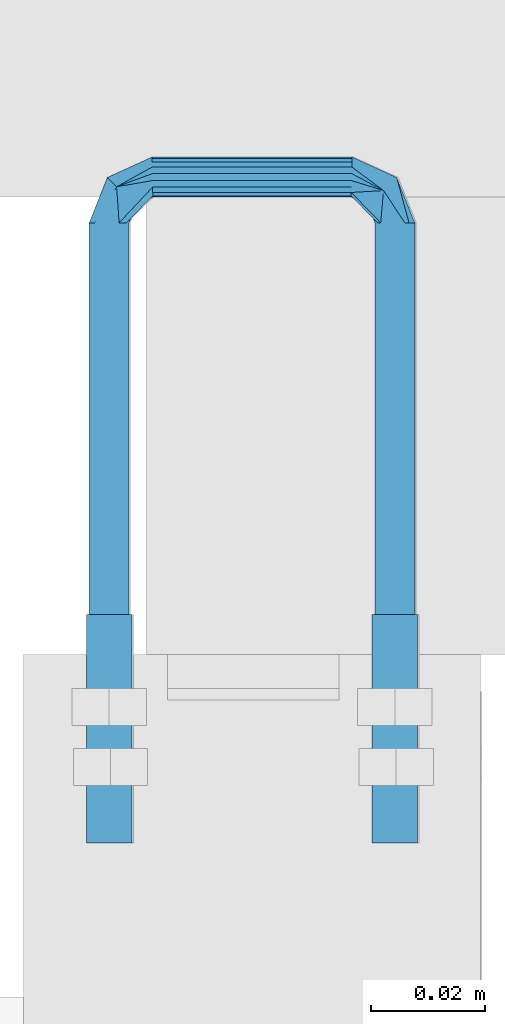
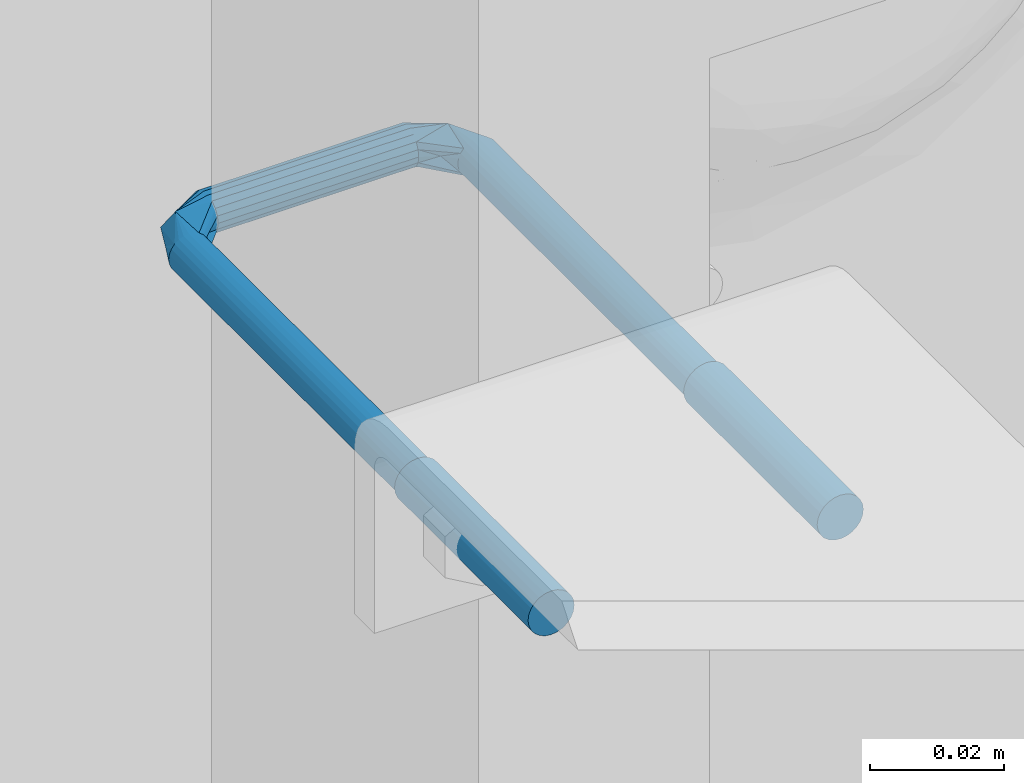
# One storey, part 2 of 13: 1 assembly.
"""IFC2X3 building model written with IfcOpenShell, lengths in metres."""

import ifcopenshell
import ifcopenshell.guid

model = None  # the IFC model being written
_history = None  # IfcOwnerHistory: only IFC2X3 demands one
_inside = {}  # id of a spatial element -> (the spatial element, [elements in it])
_under = {}  # id of a project, library or spatial element -> (it, [spatial elements below it])
_declared = {}  # id of a project -> (the project, [libraries it declares])
_typed = {}  # id of a type object -> (the type object, [elements of that type])
_made_of = {}  # id of a material, layer set ... -> (it, [elements and type objects made of it])


def new_model(schema):
    """Start an empty IFC model of exactly this schema.

    Asked for "IFC4X3", IfcOpenShell would pick the latest addendum, in which some entities
    have other attributes; the version numbers below select the first issue.
    IFC2X3 requires an IfcOwnerHistory on every rooted entity: one is made here for all.
    """
    global model, _history
    if schema == "IFC4X3":
        model = ifcopenshell.file(schema_version=(4, 3, 0, 0))
    else:
        model = ifcopenshell.file(schema=schema)
    _inside.clear()
    _under.clear()
    _declared.clear()
    _typed.clear()
    _made_of.clear()
    _history = None
    if model.schema == "IFC2X3":
        org = make("IfcOrganization", Name="unknown")
        user = make(
            "IfcPersonAndOrganization",
            ThePerson=make("IfcPerson", FamilyName="unknown"),
            TheOrganization=org,
        )
        app = make(
            "IfcApplication",
            ApplicationDeveloper=org,
            Version="unknown",
            ApplicationFullName="unknown",
            ApplicationIdentifier="unknown",
        )
        _history = make(
            "IfcOwnerHistory",
            OwningUser=user,
            OwningApplication=app,
            ChangeAction="ADDED",
            CreationDate=0,
        )
    return model


def make(cls, **values):
    """One entity of the class cls with the attributes given. An attribute that is None is left unset."""
    return model.create_entity(
        cls, **{name: value for name, value in values.items() if value is not None}
    )


def entity(cls, *values):
    """Any entity or typed value of the class cls, its attributes in the order of the schema. None: left unset."""
    e = model.create_entity(cls)
    for i, value in enumerate(values):
        if value is not None:
            e[i] = value
    return e


def rooted(cls, **values):
    """An entity with a GlobalId (a new one), such as an element, a storey or a relation."""
    return make(cls, GlobalId=ifcopenshell.guid.new(), OwnerHistory=_history, **values)


def si_unit(unit_type, name, prefix=None):
    """IfcSIUnit, for example si_unit("LENGTHUNIT", "METRE", prefix="MILLI")."""
    return make("IfcSIUnit", UnitType=unit_type, Prefix=prefix, Name=name)


def converted_unit(unit_type, name, factor, base, dimensions=None, offset=None):
    """IfcConversionBasedUnit, such as the inch: factor (a typed value) times the base unit."""
    return make(
        "IfcConversionBasedUnit"
        if offset is None
        else "IfcConversionBasedUnitWithOffset",
        ConversionOffset=offset,
        Dimensions=None
        if dimensions is None
        else entity("IfcDimensionalExponents", *dimensions),
        UnitType=unit_type,
        Name=name,
        ConversionFactor=make(
            "IfcMeasureWithUnit", ValueComponent=factor, UnitComponent=base
        ),
    )


def derived_unit(unit_type, elements):
    """IfcDerivedUnit: a product of units, each with its exponent."""
    return make(
        "IfcDerivedUnit",
        Elements=[
            make("IfcDerivedUnitElement", Unit=unit, Exponent=power)
            for unit, power in elements
        ],
        UnitType=unit_type,
    )


def assignment(units):
    """IfcUnitAssignment: the units of a project."""
    return None if units is None else make("IfcUnitAssignment", Units=units)


def point(xyz):
    """IfcCartesianPoint."""
    return None if xyz is None else make("IfcCartesianPoint", Coordinates=xyz)


def direction(xyz):
    """IfcDirection."""
    return None if xyz is None else make("IfcDirection", DirectionRatios=xyz)


def frame(location, z_axis=None, x_axis=None):
    """IfcAxis2Placement3D, a coordinate frame: its origin and axes. An axis left out is left unset."""
    return make(
        "IfcAxis2Placement3D",
        Location=point(location),
        Axis=direction(z_axis),
        RefDirection=direction(x_axis),
    )


def origin():
    """The frame at (0, 0, 0) with its axes left unset."""
    return frame((0.0, 0.0, 0.0))


def place(relative_to, where):
    """IfcLocalPlacement: puts the frame where relative to a parent placement (None: the world)."""
    return make(
        "IfcLocalPlacement", PlacementRelTo=relative_to, RelativePlacement=where
    )


def context(
    kind, dimensions, precision=None, world=None, true_north=None, identifier=None
):
    """IfcGeometricRepresentationContext, for example the 3D "Model" context."""
    return make(
        "IfcGeometricRepresentationContext",
        ContextIdentifier=identifier,
        ContextType=kind,
        CoordinateSpaceDimension=dimensions,
        Precision=precision,
        WorldCoordinateSystem=world,
        TrueNorth=true_north,
    )


def subcontext(parent, identifier, kind, view, scale=None):
    """IfcGeometricRepresentationSubContext, for example "Body" below "Model"."""
    return make(
        "IfcGeometricRepresentationSubContext",
        ContextIdentifier=identifier,
        ContextType=kind,
        ParentContext=parent,
        TargetScale=scale,
        TargetView=view,
    )


def project(units=None, contexts=None):
    """IfcProject with its units and contexts."""
    return rooted(
        "IfcProject",
        Name="project",
        RepresentationContexts=contexts,
        UnitsInContext=assignment(units),
    )


def spatial(cls, under=None, at=None, **own):
    """A site, building, storey or space (cls), placed at a placement, below another one or the project."""
    s = rooted(cls, ObjectPlacement=at, **own)
    if under is not None:
        _under.setdefault(under.id(), (under, []))[1].append(s)
    return s


def faces_of(points, faces, orient=None, outer=None):
    """IfcFace entities. A face is a list of loops; a loop is a list of indices into points, from 0.

    orient and outer hold one flag for each loop. By default every Orientation is true, the
    first loop of a face is its IfcFaceOuterBound and the others are IfcFaceBound.
    """
    made = []
    for i, loops in enumerate(faces):
        bounds = []
        for j, loop in enumerate(loops):
            is_outer = j == 0 if outer is None else outer[i][j]
            bounds.append(
                make(
                    "IfcFaceOuterBound" if is_outer else "IfcFaceBound",
                    Bound=make("IfcPolyLoop", Polygon=[points[k] for k in loop]),
                    Orientation=True if orient is None else orient[i][j],
                )
            )
        made.append(make("IfcFace", Bounds=bounds))
    return made


def faceted_brep(points, faces, orient=None, outer=None, voids=None):
    """IfcFacetedBrep: a solid bounded by flat faces; with voids (closed shells), ...WithVoids."""
    shared = [point(p) for p in points]
    hull = make("IfcClosedShell", CfsFaces=faces_of(shared, faces, orient, outer))
    if voids is None:
        return make("IfcFacetedBrep", Outer=hull)
    return make(
        "IfcFacetedBrepWithVoids",
        Outer=hull,
        Voids=[
            make(cls, CfsFaces=faces_of(shared, fs, o, b)) for cls, fs, o, b in voids
        ],
    )


def shape(context_of_items, identifier, shape_type, items):
    """IfcShapeRepresentation: the items that make up one representation, for example the "Body"."""
    return make(
        "IfcShapeRepresentation",
        ContextOfItems=context_of_items,
        RepresentationIdentifier=identifier,
        RepresentationType=shape_type,
        Items=items,
    )


def source(mapping_origin, context_of_items, identifier, shape_type, items):
    """IfcRepresentationMap: a shape defined once, which mapped items show again and again."""
    return make(
        "IfcRepresentationMap",
        MappingOrigin=mapping_origin,
        MappedRepresentation=shape(context_of_items, identifier, shape_type, items),
    )


def transform(
    local_origin,
    x_axis=None,
    y_axis=None,
    z_axis=None,
    scale=None,
    scale2=None,
    scale3=None,
    uniform=True,
):
    """IfcCartesianTransformationOperator3D, or its non-uniform kind. x_axis, y_axis, z_axis: its Axis1, 2, 3."""
    if uniform:
        return make(
            "IfcCartesianTransformationOperator3D",
            Axis1=direction(x_axis),
            Axis2=direction(y_axis),
            LocalOrigin=point(local_origin),
            Scale=scale,
            Axis3=direction(z_axis),
        )
    return make(
        "IfcCartesianTransformationOperator3DnonUniform",
        Axis1=direction(x_axis),
        Axis2=direction(y_axis),
        LocalOrigin=point(local_origin),
        Scale=scale,
        Axis3=direction(z_axis),
        Scale2=scale2,
        Scale3=scale3,
    )


def mapped(mapping_source, mapping_target):
    """IfcMappedItem: shows the shape of a source again, moved by a transform."""
    return make(
        "IfcMappedItem", MappingSource=mapping_source, MappingTarget=mapping_target
    )


def material(Name=None, Category=None):
    """IfcMaterial."""
    return make("IfcMaterial", Name=Name, Category=Category)


def made_of(thing, what):
    """Note that an element or type object is made of a material, layer set ...; save() writes the relation."""
    if what is not None:
        _made_of.setdefault(what.id(), (what, []))[1].append(thing)
    return thing


def type_object(cls, material=None, **own):
    """A type object (cls), such as IfcWallType, which elements share."""
    return made_of(rooted(cls, **own), material)


def type_shapes(of_type, sources):
    """Give a type object the sources (RepresentationMaps) that its elements show as mapped items."""
    of_type.RepresentationMaps = sources


def element(
    cls,
    number,
    at=None,
    inside=None,
    cuts=None,
    type_object=None,
    material=None,
    context=None,
    identifier="Body",
    shape_type=None,
    held_by="IfcProductDefinitionShape",
    body=None,
    shapes=None,
    **own,
):
    """One element of the class cls, such as IfcWall. Its Tag is "e" and its number.

    at: its placement. inside: the storey or other place that contains it. cuts: it is an
    opening in that element (IfcRelVoidsElement). A single representation is given by context,
    identifier, shape_type and body (its items); several are given by shapes. held_by: the class
    of the entity that holds the representations. save() writes the other relations.
    """
    e = rooted(cls, Tag="e%d" % number, ObjectPlacement=at, **own)
    if body is not None:
        shapes = [shape(context, identifier, shape_type, body)]
    if shapes is not None:
        e.Representation = make(held_by, Representations=shapes)
    if inside is not None:
        _inside.setdefault(inside.id(), (inside, []))[1].append(e)
    if cuts is not None:
        rooted(
            "IfcRelVoidsElement", RelatingBuildingElement=cuts, RelatedOpeningElement=e
        )
    if type_object is not None:
        _typed.setdefault(type_object.id(), (type_object, []))[1].append(e)
    return made_of(e, material)


def aggregate(whole, parts):
    """IfcRelAggregates: a whole, such as a stair, and the parts it consists of."""
    return rooted("IfcRelAggregates", RelatingObject=whole, RelatedObjects=parts)


def save(model, path):
    """Write the relations noted so far, then the file.

    IfcRelAggregates (storeys below a building ...), IfcRelContainedInSpatialStructure (elements
    in a storey), IfcRelDefinesByType, IfcRelAssociatesMaterial and IfcRelDeclares: one each for
    every whole, place, type object, material and project.
    """
    for whole, parts in _under.values():
        aggregate(whole, parts)
    for where, things in _inside.values():
        rooted(
            "IfcRelContainedInSpatialStructure",
            RelatedElements=things,
            RelatingStructure=where,
        )
    for kind, things in _typed.values():
        rooted("IfcRelDefinesByType", RelatedObjects=things, RelatingType=kind)
    for what, things in _made_of.values():
        rooted("IfcRelAssociatesMaterial", RelatedObjects=things, RelatingMaterial=what)
    for by, libraries in _declared.values():
        rooted("IfcRelDeclares", RelatingContext=by, RelatedDefinitions=libraries)
    model.write(path)


model = new_model("IFC2X3")

# Units and contexts
model_context = context("Model", 3, precision=1e-05, world=origin(), true_north=direction((6.123031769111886e-17, 1.0)))
body_context = subcontext(model_context, "Body", "Model", "MODEL_VIEW")
ifc_project = project(units=[si_unit("LENGTHUNIT", "METRE"), si_unit("AREAUNIT", "SQUARE_METRE"), converted_unit("PLANEANGLEUNIT", "DEGREE", entity("IfcPlaneAngleMeasure", 0.017453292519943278), si_unit("PLANEANGLEUNIT", "RADIAN"), dimensions=[0, 0, 0, 0, 0, 0, 0]), si_unit("VOLUMEUNIT", "CUBIC_METRE"), derived_unit("THERMALTRANSMITTANCEUNIT", [(si_unit("MASSUNIT", "GRAM", prefix="KILO"), 1), (si_unit("THERMODYNAMICTEMPERATUREUNIT", "KELVIN"), -1), (si_unit("TIMEUNIT", "SECOND"), -3)]), derived_unit("USERDEFINED", [(si_unit("MASSUNIT", "GRAM", prefix="KILO"), 1), (si_unit("THERMODYNAMICTEMPERATUREUNIT", "KELVIN"), -1), (si_unit("TIMEUNIT", "SECOND"), -2)]), derived_unit("THERMALRESISTANCEUNIT", [(si_unit("MASSUNIT", "GRAM", prefix="KILO"), -1), (si_unit("TIMEUNIT", "SECOND"), 3), (si_unit("THERMODYNAMICTEMPERATUREUNIT", "KELVIN"), 1)]), derived_unit("MASSDENSITYUNIT", [(si_unit("MASSUNIT", "GRAM", prefix="KILO"), 1), (si_unit("LENGTHUNIT", "METRE"), -3)]), derived_unit("VAPORPERMEABILITYUNIT", [(si_unit("LENGTHUNIT", "METRE"), -1), (si_unit("TIMEUNIT", "SECOND"), 1)]), derived_unit("USERDEFINED", [(si_unit("MASSUNIT", "GRAM", prefix="KILO"), 1), (si_unit("TIMEUNIT", "SECOND"), -3), (si_unit("LENGTHUNIT", "METRE"), 3), (si_unit("ELECTRICCURRENTUNIT", "AMPERE"), -2)]), si_unit("PRESSUREUNIT", "PASCAL")], contexts=[model_context])

# Site, building, storey
site_placement = place(None, origin())
site = spatial("IfcSite", under=ifc_project, at=site_placement, Name="Default", CompositionType="ELEMENT")
building_placement = place(site_placement, origin())
building = spatial("IfcBuilding", under=site, at=building_placement, CompositionType="ELEMENT")
storey_placement = place(building_placement, origin())
storey = spatial("IfcBuildingStorey", under=building, at=storey_placement, Name="L0", CompositionType="ELEMENT", Elevation=0.0)

# Assembly
ifc_material = material(Name="REC_Acero, S 275JR (Zincado)")
type_product = type_object("IfcTypeProduct", Name="REC-AU12050M8EQ:AU12050M8EQ", material=ifc_material)
shared_shape = source(origin(), body_context, "Body", "Brep", [
    faceted_brep([(0.023250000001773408, 0.003031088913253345, 0.013000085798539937), (0.022999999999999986, 0.0034641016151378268, 0.013000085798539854), (0.022525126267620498, 0.0024748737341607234, 0.013000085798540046), (0.02396472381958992, 0.003863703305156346, 0.013000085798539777), (0.024094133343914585, 0.003380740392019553, 0.01300008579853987), (0.02500000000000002, 0.00400000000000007, 0.01300008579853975), (0.025000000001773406, 0.0035000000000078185, 0.013000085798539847), (0.026035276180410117, 0.0038637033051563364, 0.013000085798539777), (0.02590586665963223, 0.0033807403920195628, 0.01300008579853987), (0.027000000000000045, 0.0034641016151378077, 0.013000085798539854), (0.026750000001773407, 0.003031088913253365, 0.013000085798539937), (0.027474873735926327, 0.0024748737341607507, 0.013000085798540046), (0.027828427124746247, 0.002828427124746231, 0.013000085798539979), (0.02803108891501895, 0.001750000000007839, 0.013000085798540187), (0.02846410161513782, 0.002000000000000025, 0.013000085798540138), (0.02838074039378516, 0.0009058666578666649, 0.013000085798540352), (0.02886370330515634, 0.0010352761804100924, 0.013000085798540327), (0.028500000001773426, 0.0, 0.013000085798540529), (0.029000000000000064, 0.0, 0.013000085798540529), (0.02838074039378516, -0.0009058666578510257, 0.013000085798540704), (0.028863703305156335, -0.0010352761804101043, 0.013000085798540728), (0.02803108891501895, -0.0017499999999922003, 0.013000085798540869), (0.028464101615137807, -0.0020000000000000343, 0.013000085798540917), (0.027474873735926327, -0.0024748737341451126, 0.013000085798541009), (0.027828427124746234, -0.002828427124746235, 0.013000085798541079), (0.026750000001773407, -0.003031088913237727, 0.013000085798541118), (0.027000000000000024, -0.0034641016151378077, 0.013000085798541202), (0.02590586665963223, -0.003380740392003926, 0.013000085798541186), (0.026035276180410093, -0.00386370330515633, 0.013000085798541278), (0.02500000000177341, -0.0034999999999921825, 0.013000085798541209), (0.024999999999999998, -0.004000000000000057, 0.013000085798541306), (0.024094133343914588, -0.003380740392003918, 0.013000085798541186), (0.0239647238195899, -0.003863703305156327, 0.013000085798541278), (0.02325000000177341, -0.0030310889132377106, 0.013000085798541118), (0.022999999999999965, -0.003464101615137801, 0.013000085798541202), (0.022171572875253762, -0.002828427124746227, 0.013000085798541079), (0.0225251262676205, -0.0024748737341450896, 0.013000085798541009), (0.021535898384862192, -0.0020000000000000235, 0.013000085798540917), (0.021968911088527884, -0.001749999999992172, 0.013000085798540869), (0.021136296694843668, -0.0010352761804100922, 0.013000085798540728), (0.021619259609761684, -0.0009058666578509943, 0.013000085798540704), (0.02099999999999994, 0.0, 0.013000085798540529), (0.021500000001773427, 0.0, 0.013000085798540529), (0.02113629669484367, 0.0010352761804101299, 0.013000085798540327), (0.021619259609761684, 0.0009058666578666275, 0.013000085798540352), (0.021535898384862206, 0.0020000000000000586, 0.013000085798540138), (0.02196891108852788, 0.0017500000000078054, 0.013000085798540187), (0.022171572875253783, 0.0028284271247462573, 0.013000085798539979), (-0.023000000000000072, -0.0034641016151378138, 0.013000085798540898), (-0.02217157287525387, -0.0028284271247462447, 0.013000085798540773), (-0.02153589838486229, -0.0020000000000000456, 0.013000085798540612), (-0.021136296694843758, -0.0010352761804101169, 0.013000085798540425), (-0.021619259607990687, -0.0009058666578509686, 0.013000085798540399), (-0.02196891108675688, -0.0017499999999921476, 0.013000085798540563), (-0.022525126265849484, -0.002474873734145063, 0.013000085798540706), (-0.023250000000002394, -0.003031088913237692, 0.013000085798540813), (-0.024094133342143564, -0.0033807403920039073, 0.01300008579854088), (-0.025000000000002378, -0.0034999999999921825, 0.013000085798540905), (-0.0259058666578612, -0.003380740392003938, 0.01300008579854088), (-0.02675000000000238, -0.003031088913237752, 0.013000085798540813), (-0.027474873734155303, -0.002474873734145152, 0.013000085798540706), (-0.028031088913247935, -0.001749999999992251, 0.013000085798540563), (-0.02838074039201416, -0.0009058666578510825, 0.013000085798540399), (-0.028500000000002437, 0.0, 0.013000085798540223), (-0.028380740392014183, 0.0009058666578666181, 0.013000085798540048), (-0.028031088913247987, 0.0017500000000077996, 0.013000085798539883), (-0.027474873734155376, 0.002474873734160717, 0.013000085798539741), (-0.026750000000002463, 0.00303108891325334, 0.013000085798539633), (-0.02590586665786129, 0.00338074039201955, 0.013000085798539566), (-0.025000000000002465, 0.0035000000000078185, 0.013000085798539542), (-0.024094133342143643, 0.0033807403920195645, 0.013000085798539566), (-0.023250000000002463, 0.0030310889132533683, 0.013000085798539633), (-0.022525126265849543, 0.0024748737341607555, 0.013000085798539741), (-0.02196891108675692, 0.0017500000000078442, 0.013000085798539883), (-0.021619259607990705, 0.0009058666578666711, 0.013000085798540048), (-0.021000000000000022, 0.0, 0.013000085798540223), (-0.021136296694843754, 0.0010352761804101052, 0.013000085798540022), (-0.02153589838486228, 0.0020000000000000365, 0.013000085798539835), (-0.02217157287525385, 0.0028284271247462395, 0.013000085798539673), (-0.02300000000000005, 0.0034641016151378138, 0.013000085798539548), (-0.023964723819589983, 0.0038637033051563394, 0.013000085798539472), (-0.02500000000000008, 0.00400000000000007, 0.013000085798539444), (-0.02603527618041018, 0.003863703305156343, 0.013000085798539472), (-0.02700000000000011, 0.0034641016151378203, 0.013000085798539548), (-0.027828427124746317, 0.0028284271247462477, 0.013000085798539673), (-0.02846410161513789, 0.0020000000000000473, 0.013000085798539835), (-0.028863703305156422, 0.0010352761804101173, 0.013000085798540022), (-0.02900000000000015, 0.0, 0.013000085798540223), (-0.028863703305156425, -0.0010352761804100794, 0.013000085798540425), (-0.028464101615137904, -0.002000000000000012, 0.013000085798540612), (-0.027828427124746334, -0.0028284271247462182, 0.013000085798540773), (-0.02700000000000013, -0.003464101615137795, 0.013000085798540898), (-0.026035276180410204, -0.003863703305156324, 0.013000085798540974), (-0.025000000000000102, -0.004000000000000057, 0.013000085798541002), (-0.023964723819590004, -0.0038637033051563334, 0.013000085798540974), (0.0239647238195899, -0.0038637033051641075, -0.026999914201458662), (0.022999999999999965, -0.003464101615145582, -0.026999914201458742), (0.022171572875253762, -0.002828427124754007, -0.026999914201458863), (0.021535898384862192, -0.0020000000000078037, -0.026999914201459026), (0.021136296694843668, -0.0010352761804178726, -0.02699991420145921), (0.02099999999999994, 0.0, -0.026999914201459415), (0.02113629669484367, 0.0010352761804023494, -0.026999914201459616), (0.021535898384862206, 0.0019999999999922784, -0.026999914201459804), (0.022171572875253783, 0.002828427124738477, -0.026999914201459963), (0.022999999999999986, 0.003464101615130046, -0.026999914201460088), (0.02396472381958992, 0.0038637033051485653, -0.026999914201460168), (0.02500000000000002, 0.003999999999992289, -0.026999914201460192), (0.026035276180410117, 0.0038637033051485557, -0.026999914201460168), (0.027000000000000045, 0.003464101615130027, -0.026999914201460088), (0.027828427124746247, 0.0028284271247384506, -0.026999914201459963), (0.02846410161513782, 0.0019999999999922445, -0.026999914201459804), (0.02886370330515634, 0.001035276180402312, -0.026999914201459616), (0.029000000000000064, 0.0, -0.026999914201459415), (0.028863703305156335, -0.0010352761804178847, -0.02699991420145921), (0.028464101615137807, -0.0020000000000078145, -0.026999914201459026), (0.027828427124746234, -0.002828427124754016, -0.026999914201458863), (0.027000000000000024, -0.003464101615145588, -0.026999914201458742), (0.026035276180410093, -0.0038637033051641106, -0.026999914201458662), (0.024999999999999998, -0.0040000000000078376, -0.026999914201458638), (-0.023964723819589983, 0.003863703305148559, -0.026999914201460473), (-0.02300000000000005, 0.0034641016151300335, -0.02699991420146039), (-0.02217157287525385, 0.002828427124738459, -0.02699991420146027), (-0.02153589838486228, 0.0019999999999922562, -0.02699991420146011), (-0.021136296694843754, 0.0010352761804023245, -0.02699991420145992), (-0.021000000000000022, 0.0, -0.02699991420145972), (-0.021136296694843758, -0.0010352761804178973, -0.026999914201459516), (-0.02153589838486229, -0.002000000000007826, -0.026999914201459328), (-0.02217157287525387, -0.0028284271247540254, -0.02699991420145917), (-0.023000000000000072, -0.0034641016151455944, -0.026999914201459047), (-0.023964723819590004, -0.0038637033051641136, -0.026999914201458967), (-0.025000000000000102, -0.0040000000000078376, -0.02699991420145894), (-0.026035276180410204, -0.003863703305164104, -0.026999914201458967), (-0.02700000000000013, -0.0034641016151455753, -0.026999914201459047), (-0.027828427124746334, -0.002828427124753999, -0.02699991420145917), (-0.028464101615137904, -0.0020000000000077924, -0.026999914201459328), (-0.028863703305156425, -0.0010352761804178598, -0.026999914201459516), (-0.02900000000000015, 0.0, -0.02699991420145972), (-0.028863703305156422, 0.0010352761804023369, -0.02699991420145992), (-0.02846410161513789, 0.001999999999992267, -0.02699991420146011), (-0.027828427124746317, 0.0028284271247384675, -0.02699991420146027), (-0.02700000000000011, 0.00346410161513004, -0.02699991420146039), (-0.02603527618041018, 0.0038637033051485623, -0.026999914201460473), (-0.02500000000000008, 0.003999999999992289, -0.026999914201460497), (-0.021500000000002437, 0.0, 0.013000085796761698), (-0.021500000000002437, 0.0, 0.08151281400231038), (-0.021619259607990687, -0.0009058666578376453, 0.08151281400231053), (-0.021968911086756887, -0.0017499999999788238, 0.08151281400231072), (-0.022525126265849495, -0.0024748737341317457, 0.08151281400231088), (-0.023250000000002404, -0.0030310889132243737, 0.08151281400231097), (-0.024094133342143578, -0.0033807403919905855, 0.08151281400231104), (-0.0250000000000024, -0.0034999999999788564, 0.08151281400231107), (-0.0267500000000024, -0.0030310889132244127, 0.08151281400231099), (-0.027474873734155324, -0.002474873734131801, 0.08151281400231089), (-0.02590586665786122, -0.0033807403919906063, 0.08151281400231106), (-0.028380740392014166, -0.0009058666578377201, 0.08151281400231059), (-0.028500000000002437, 0.0, 0.0815128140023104), (-0.028031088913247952, -0.001749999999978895, 0.08151281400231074), (-0.028380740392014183, 0.0009058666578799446, 0.08151281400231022), (-0.028031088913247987, 0.001750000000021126, 0.08151281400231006), (-0.027474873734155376, 0.0024748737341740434, 0.08151281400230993), (-0.02675000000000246, 0.0030310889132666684, 0.08151281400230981), (-0.02590586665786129, 0.0033807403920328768, 0.08151281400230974), (-0.025000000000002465, 0.003500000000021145, 0.08151281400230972), (-0.024094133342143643, 0.003380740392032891, 0.08151281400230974), (-0.023250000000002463, 0.003031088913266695, 0.08151281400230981), (-0.022525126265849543, 0.002474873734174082, 0.08151281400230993), (-0.021619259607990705, 0.0009058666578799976, 0.08151281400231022), (-0.02196891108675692, 0.0017500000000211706, 0.08151281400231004), (-0.023021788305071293, -0.0034912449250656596, 0.0871482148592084), (-0.01736775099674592, -0.002249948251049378, 0.08681909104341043), (-0.02722998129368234, 0.0, 0.08468391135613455), (-0.02532077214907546, 0.0, 0.0894509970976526), (-0.020299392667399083, 0.0, 0.08457288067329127), (-0.01734606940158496, -0.001196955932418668, 0.08621111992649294), (-0.017338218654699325, 0.0, 0.08600008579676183), (-0.01743353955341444, -0.0034464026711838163, 0.08888991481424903), (-0.01746793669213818, -0.0034468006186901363, 0.09010800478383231), (-0.017398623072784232, -0.0030301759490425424, 0.08774850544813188), (-0.017498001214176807, -0.003031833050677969, 0.09124879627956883), (-0.017535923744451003, -0.001196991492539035, 0.09278903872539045), (-0.01752129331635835, -0.0022495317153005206, 0.09218143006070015), (-0.017540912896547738, 0.0, 0.09300008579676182), (-0.023021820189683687, 0.003491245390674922, 0.08714817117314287), (-0.017467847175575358, 0.0034473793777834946, 0.0901047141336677), (-0.017433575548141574, 0.0034466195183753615, 0.08889114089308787), (-0.017367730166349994, 0.0022492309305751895, 0.0868184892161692), (-0.017497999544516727, 0.0030318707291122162, 0.09124873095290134), (-0.017521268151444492, 0.002250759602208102, 0.09218039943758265), (-0.01739859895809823, 0.0030297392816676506, 0.08774775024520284), (-0.017535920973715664, 0.0011973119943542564, 0.09278892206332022), (-0.017346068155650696, 0.001196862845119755, 0.0862110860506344), (0.01733821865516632, 0.0, 0.08600008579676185), (0.01734606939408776, -0.0011969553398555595, 0.0862111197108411), (0.017398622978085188, -0.0030301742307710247, 0.08774850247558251), (0.017433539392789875, -0.0034464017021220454, 0.08888990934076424), (0.017367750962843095, -0.0022499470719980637, 0.08681909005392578), (0.017467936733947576, -0.0034468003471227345, 0.09010800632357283), (0.017498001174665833, -0.003031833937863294, 0.09124879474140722), (0.017521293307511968, -0.0022495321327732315, 0.0921814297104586), (0.01753592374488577, -0.0011969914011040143, 0.09278903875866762), (0.017540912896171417, 0.0, 0.09300008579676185), (0.01753592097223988, 0.0011973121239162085, 0.09278892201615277), (0.01752126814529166, 0.002250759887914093, 0.09218039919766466), (0.017497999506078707, 0.0030318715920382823, 0.09124872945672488), (0.017467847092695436, 0.003447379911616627, 0.09010471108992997), (0.01743357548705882, 0.0034466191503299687, 0.08889113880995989), (0.017398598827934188, 0.0030297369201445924, 0.08774774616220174), (0.0173460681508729, 0.0011968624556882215, 0.08621108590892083), (0.017367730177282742, 0.0022492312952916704, 0.08681848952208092), (0.022525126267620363, -0.0024748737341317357, 0.08151281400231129), (0.023697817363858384, -0.0032894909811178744, 0.08781334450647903), (0.020299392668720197, 0.0, 0.08457288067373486), (0.02196891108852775, -0.0017499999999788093, 0.08151281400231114), (0.023250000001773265, -0.003031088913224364, 0.08151281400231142), (0.025320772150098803, 0.0, 0.08945099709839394), (0.028380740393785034, -0.0009058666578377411, 0.08151281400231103), (0.028500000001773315, 0.0, 0.08151281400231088), (0.02722998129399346, 0.0, 0.0846839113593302), (0.026750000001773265, -0.0030310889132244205, 0.08151281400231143), (0.025905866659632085, -0.0033807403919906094, 0.0815128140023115), (0.021619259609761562, -0.0009058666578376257, 0.08151281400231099), (0.021500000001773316, 0.0, 0.0815128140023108), (0.02409413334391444, -0.0033807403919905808, 0.08151281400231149), (0.02747487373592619, -0.0024748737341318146, 0.08151281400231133), (0.025000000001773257, -0.0034999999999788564, 0.08151281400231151), (0.02803108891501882, -0.0017499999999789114, 0.0815128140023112), (0.023697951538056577, 0.0032894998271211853, 0.08781316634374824), (0.021968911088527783, 0.0017500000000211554, 0.08151281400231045), (0.022525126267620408, 0.0024748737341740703, 0.08151281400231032), (0.025905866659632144, 0.0033807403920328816, 0.08151281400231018), (0.025000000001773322, 0.003500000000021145, 0.08151281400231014), (0.028031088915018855, 0.001750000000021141, 0.08151281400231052), (0.028380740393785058, 0.0009058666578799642, 0.08151281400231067), (0.0240941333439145, 0.0033807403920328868, 0.08151281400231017), (0.026750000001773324, 0.0030310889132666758, 0.08151281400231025), (0.027474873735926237, 0.0024748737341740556, 0.08151281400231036), (0.02161925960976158, 0.0009058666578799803, 0.08151281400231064), (0.023250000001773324, 0.003031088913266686, 0.08151281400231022)], [[[0, 1, 2]], [[1, 0, 3]], [[4, 3, 0]], [[5, 3, 4]], [[6, 5, 4]], [[6, 7, 5]], [[7, 6, 8]], [[7, 8, 9]], [[10, 9, 8]], [[11, 9, 10]], [[12, 9, 11]], [[13, 12, 11]], [[13, 14, 12]], [[13, 15, 14]], [[15, 16, 14]], [[16, 15, 17]], [[16, 17, 18]], [[17, 19, 18]], [[19, 20, 18]], [[19, 21, 20]], [[20, 21, 22]], [[21, 23, 22]], [[23, 24, 22]], [[25, 24, 23]], [[24, 25, 26]], [[26, 25, 27]], [[27, 28, 26]], [[27, 29, 28]], [[28, 29, 30]], [[30, 29, 31]], [[31, 32, 30]], [[32, 31, 33]], [[33, 34, 32]], [[35, 34, 33]], [[35, 33, 36]], [[37, 35, 36]], [[36, 38, 37]], [[38, 39, 37]], [[38, 40, 39]], [[40, 41, 39]], [[40, 42, 41]], [[42, 43, 41]], [[44, 43, 42]], [[44, 45, 43]], [[44, 46, 45]], [[2, 47, 46]], [[46, 47, 45]], [[2, 1, 47]], [[48, 49, 50, 51, 52, 53, 54, 55, 56, 57, 58, 59, 60, 61, 62, 63, 64, 65, 66, 67, 68, 69, 70, 71, 72, 73, 74, 75, 76, 77, 78, 79, 80, 81, 82, 83, 84, 85, 86, 87, 88, 89, 90, 91, 92, 93, 94]], [[95, 96, 97, 98, 99, 100, 101, 102, 103, 104, 105, 106, 107, 108, 109, 110, 111, 112, 113, 114, 115, 116, 117, 118]], [[119, 120, 121, 122, 123, 124, 125, 126, 127, 128, 129, 130, 131, 132, 133, 134, 135, 136, 137, 138, 139, 140, 141, 142]], [[99, 39, 41, 100]], [[98, 37, 39, 99]], [[34, 35, 97, 96]], [[98, 97, 35, 37]], [[32, 34, 96, 95]], [[95, 118, 30, 32]], [[117, 28, 30, 118]], [[116, 26, 28, 117]], [[22, 24, 115, 114]], [[116, 115, 24, 26]], [[20, 22, 114, 113]], [[18, 20, 113, 112]], [[111, 16, 18, 112]], [[110, 14, 16, 111]], [[9, 12, 109, 108]], [[110, 109, 12, 14]], [[7, 9, 108, 107]], [[5, 7, 107, 106]], [[105, 3, 5, 106]], [[104, 1, 3, 105]], [[45, 47, 103, 102]], [[104, 103, 47, 1]], [[43, 45, 102, 101]], [[41, 43, 101, 100]], [[143, 144, 145, 52]], [[146, 53, 52, 145]], [[54, 147, 148, 55]], [[146, 147, 54, 53]], [[55, 148, 149, 56]], [[56, 149, 150, 57]], [[151, 152, 60, 59]], [[153, 151, 59, 58]], [[154, 155, 63, 62]], [[156, 154, 62, 61]], [[152, 156, 61, 60]], [[58, 57, 150, 153]], [[157, 64, 63, 155]], [[158, 65, 64, 157]], [[66, 159, 160, 67]], [[158, 159, 66, 65]], [[67, 160, 161, 68]], [[68, 161, 162, 69]], [[70, 163, 164, 71]], [[165, 72, 71, 164]], [[166, 144, 143, 74]], [[167, 166, 74, 73]], [[72, 165, 167, 73]], [[70, 69, 162, 163]], [[149, 148, 168]], [[168, 148, 147]], [[169, 147, 146]], [[169, 168, 147]], [[150, 168, 153]], [[156, 152, 170]], [[170, 152, 171]], [[151, 153, 168]], [[151, 171, 152]], [[155, 154, 170]], [[146, 145, 172]], [[172, 173, 146]], [[173, 172, 174]], [[156, 170, 154]], [[175, 176, 168]], [[168, 169, 177]], [[169, 146, 173]], [[176, 178, 168]], [[175, 168, 177]], [[171, 151, 168]], [[149, 168, 150]], [[168, 178, 171]], [[179, 171, 180]], [[181, 171, 179]], [[180, 171, 178]], [[172, 145, 144]], [[171, 159, 170]], [[157, 170, 158]], [[157, 155, 170]], [[160, 159, 171]], [[160, 171, 182]], [[183, 184, 182]], [[170, 159, 158]], [[161, 182, 162]], [[162, 182, 163]], [[165, 164, 182]], [[167, 172, 166]], [[165, 185, 167]], [[163, 182, 164]], [[161, 160, 182]], [[186, 183, 182]], [[186, 171, 187]], [[188, 182, 184]], [[171, 189, 187]], [[189, 171, 181]], [[144, 166, 172]], [[174, 172, 190]], [[165, 182, 185]], [[190, 172, 167]], [[167, 185, 190]], [[188, 185, 182]], [[186, 182, 171]], [[191, 192, 174]], [[193, 194, 177]], [[195, 193, 169]], [[192, 195, 173]], [[173, 174, 192]], [[177, 169, 193]], [[175, 177, 194]], [[173, 195, 169]], [[194, 196, 175]], [[176, 196, 197]], [[180, 198, 199]], [[197, 198, 178]], [[199, 200, 179]], [[176, 197, 178]], [[199, 179, 180]], [[180, 178, 198]], [[179, 200, 181]], [[196, 176, 175]], [[189, 200, 201]], [[186, 202, 203]], [[201, 202, 187]], [[183, 203, 204]], [[181, 200, 189]], [[187, 189, 201]], [[202, 186, 187]], [[203, 183, 186]], [[204, 184, 183]], [[205, 206, 188]], [[207, 191, 174]], [[208, 207, 185]], [[206, 208, 185]], [[188, 184, 205]], [[190, 185, 207]], [[174, 190, 207]], [[188, 206, 185]], [[205, 184, 204]], [[209, 193, 195]], [[194, 193, 210]], [[192, 191, 211]], [[195, 192, 212]], [[210, 193, 213]], [[214, 200, 199]], [[214, 199, 198]], [[196, 210, 197]], [[196, 194, 210]], [[210, 198, 197]], [[211, 212, 192]], [[215, 216, 217]], [[218, 210, 219]], [[220, 212, 211]], [[221, 220, 211]], [[210, 214, 198]], [[222, 210, 213]], [[209, 213, 193]], [[212, 209, 195]], [[223, 210, 218]], [[219, 210, 224]], [[225, 217, 223]], [[214, 223, 217]], [[215, 217, 225]], [[223, 214, 210]], [[224, 210, 222]], [[201, 214, 202]], [[214, 201, 200]], [[226, 203, 202]], [[226, 202, 214]], [[204, 226, 205]], [[205, 226, 206]], [[227, 207, 208]], [[207, 211, 191]], [[227, 211, 207]], [[208, 206, 228]], [[229, 230, 226]], [[231, 217, 232]], [[230, 233, 226]], [[234, 226, 235]], [[203, 226, 204]], [[231, 235, 217]], [[232, 217, 216]], [[226, 214, 235]], [[214, 217, 235]], [[227, 236, 211]], [[221, 211, 236]], [[237, 206, 226]], [[228, 206, 237]], [[227, 208, 228]], [[233, 237, 226]], [[226, 234, 229]], [[221, 42, 40, 220]], [[38, 212, 220, 40]], [[209, 36, 33, 213]], [[38, 36, 209, 212]], [[213, 33, 31, 222]], [[222, 31, 29, 224]], [[25, 23, 223, 218]], [[27, 25, 218, 219]], [[19, 17, 216, 215]], [[21, 19, 215, 225]], [[23, 21, 225, 223]], [[219, 224, 29, 27]], [[15, 13, 231, 232]], [[17, 15, 232, 216]], [[10, 8, 229, 234]], [[11, 10, 234, 235]], [[13, 11, 235, 231]], [[229, 8, 6, 230]], [[0, 2, 228, 237]], [[4, 0, 237, 233]], [[44, 42, 221, 236]], [[46, 44, 236, 227]], [[2, 46, 227, 228]], [[233, 230, 6, 4]], [[143, 51, 75]], [[52, 51, 143]], [[74, 143, 75]], [[135, 88, 87, 136]], [[134, 89, 88, 135]], [[91, 90, 133, 132]], [[134, 133, 90, 89]], [[92, 91, 132, 131]], [[93, 92, 131, 130]], [[129, 94, 93, 130]], [[128, 48, 94, 129]], [[50, 49, 127, 126]], [[128, 127, 49, 48]], [[51, 50, 126, 125]], [[75, 51, 125, 124]], [[123, 76, 75, 124]], [[122, 77, 76, 123]], [[79, 78, 121, 120]], [[122, 121, 78, 77]], [[80, 79, 120, 119]], [[119, 142, 81, 80]], [[141, 82, 81, 142]], [[140, 83, 82, 141]], [[85, 84, 139, 138]], [[140, 139, 84, 83]], [[86, 85, 138, 137]], [[87, 86, 137, 136]]]),
])
type_shapes(type_product, [shared_shape])
assembly_placement = place(storey_placement, frame((4.956247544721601, 15.988530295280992, 2.694915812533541), z_axis=(0.0, 1.0, 0.0), x_axis=(-1.0, 0.0, 0.0)))
element("IfcElementAssembly", 1, at=assembly_placement, inside=storey, type_object=type_product, material=ifc_material, Name="REC-AU12050M8EQ:AU12050M8EQ", ObjectType="REC-AU12050M8EQ:AU12050M8EQ", AssemblyPlace="NOTDEFINED", PredefinedType="NOTDEFINED", context=body_context, shape_type="MappedRepresentation", body=[
    mapped(shared_shape, transform((0.0, 0.0, 0.0), scale=1.0)),
])

save(model, "model.ifc")
